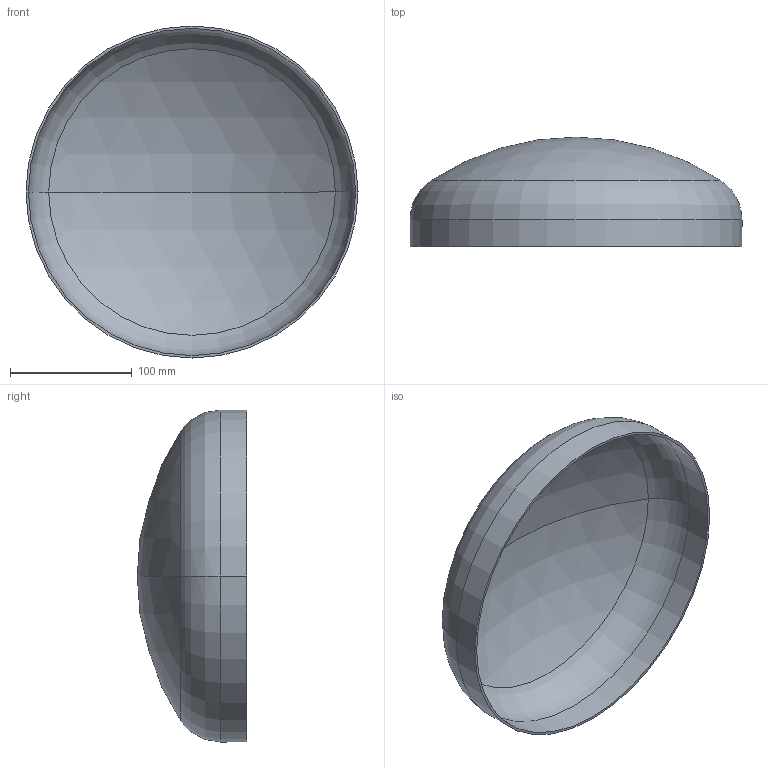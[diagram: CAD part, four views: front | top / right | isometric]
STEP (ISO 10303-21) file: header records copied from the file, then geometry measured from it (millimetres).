
FILE_DESCRIPTION (( 'STEP AP203' ), '1' );
FILE_NAME ('3D_R365_273x2_173372110.STEP', '2024-07-16T06:57:25', ( '' ), ( '' ), 'SwSTEP 2.0', 'SolidWorks 2024', '' );
FILE_SCHEMA (( 'CONFIG_CONTROL_DESIGN' ));
Length unit declared in the file: millimetre
Products named in the file (1): 3D_R365_273x2_173372110
Bounding box: 273 x 90 x 273 mm (x, y, z)
Volume: 194296.4 mm3; surface area: 196007.5 mm2
Topology: 1 solids, 1 shells, 13 faces, 24 edges, 14 vertices
Faces by surface type: sphere 4, torus 4, cylinder 4, plane 1
Entity records: 407 total; most frequent: DIRECTION 72, CARTESIAN_POINT 52, ORIENTED_EDGE 48, AXIS2_PLACEMENT_3D 34, EDGE_CURVE 24, CIRCLE 20, EDGE_LOOP 14, VERTEX_POINT 14
